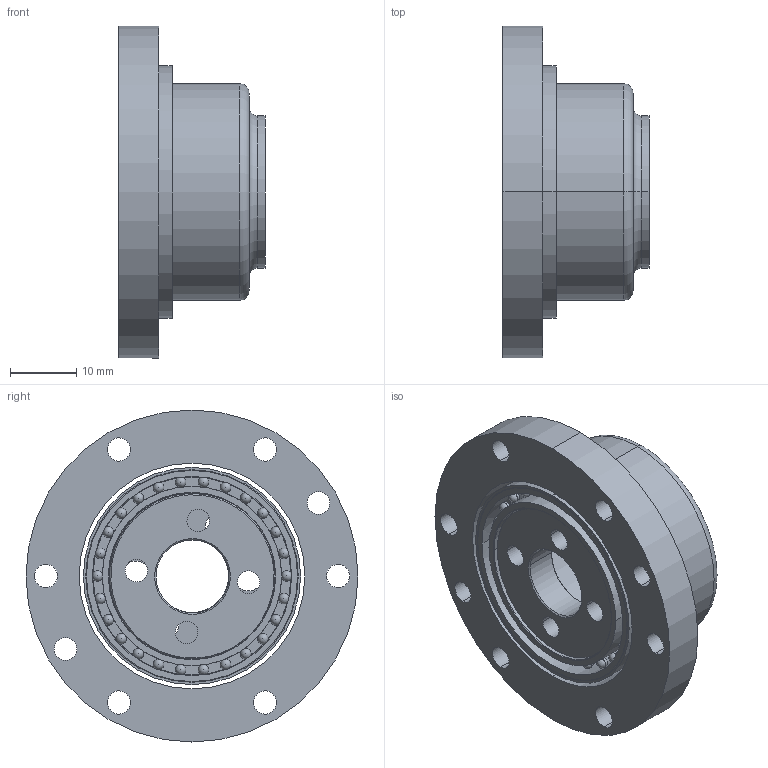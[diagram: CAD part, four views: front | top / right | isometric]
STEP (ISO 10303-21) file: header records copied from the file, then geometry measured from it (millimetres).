
FILE_DESCRIPTION (( 'STEP AP203' ), '1' );
FILE_NAME ('PGK 12-100.STEP', '2022-11-20T14:32:53', ( '' ), ( '' ), 'SwSTEP 2.0', 'SolidWorks 2018', '' );
FILE_SCHEMA (( 'CONFIG_CONTROL_DESIGN' ));
Length unit declared in the file: millimetre
Products named in the file (5): PGK 11-100-04; PGK 12-100; PGK 11-100-03; PGK 11-100-02; PGK 11-100-01
Assembly tree (4 placements, depth 2):
  PGK 12-100
    PGK 11-100-01
    PGK 11-100-04
    PGK 11-100-02
    PGK 11-100-03
Bounding box: 22 x 50 x 50 mm (x, y, z)
Volume: 10497.3 mm3; surface area: 14018.4 mm2
Topology: 4 solids, 4 shells, 154 faces, 617 edges, 421 vertices
Faces by surface type: cylinder 66, sphere 52, torus 14, plane 14, bspline 4, cone 4
Entity records: 8488 total; most frequent: CARTESIAN_POINT 3552, ORIENTED_EDGE 930, DIRECTION 926, EDGE_CURVE 465, AXIS2_PLACEMENT_3D 425, VERTEX_POINT 321, CIRCLE 268, EDGE_LOOP 256
